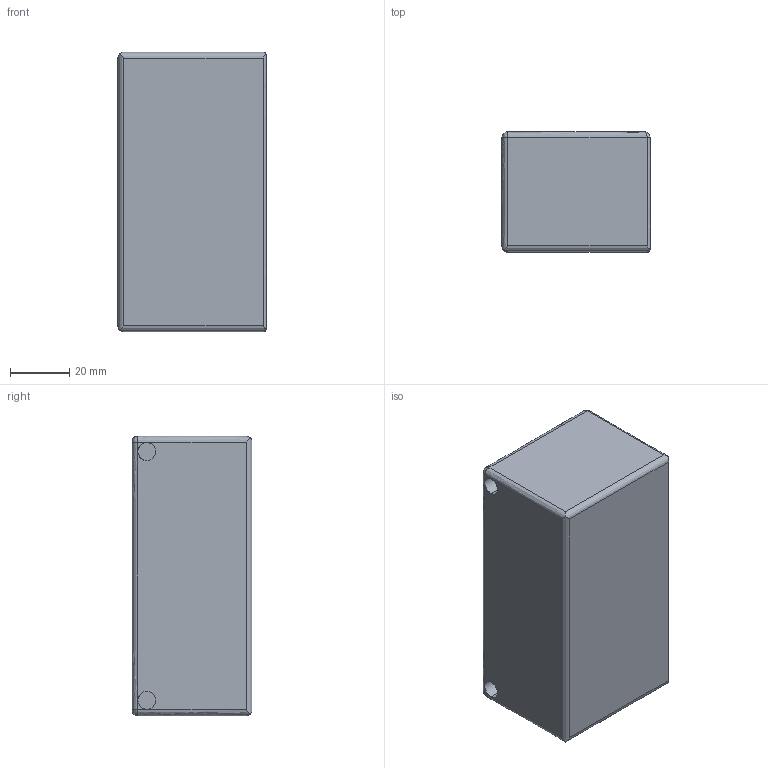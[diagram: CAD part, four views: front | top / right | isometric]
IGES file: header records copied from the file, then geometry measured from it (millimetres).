
Start section: ------------------------------------------------------------------------
Global section: file name: D:\ICADMX\tmp\trans3d_spg\CVICAD32.14756.YS6A1_10257.igs; native system: spGate; preprocessor: ver12.6.6; author: Unknown; organization: Unknown; date: 200909.091804; units: millimetre
Bounding box: 50 x 40.5 x 94.4 mm (x, y, z)
Volume: 188563.8 mm3; surface area: 21972.1 mm2
Topology: 1 solids, 1 shells, 28 faces, 68 edges, 38 vertices
Faces by surface type: bspline 28
